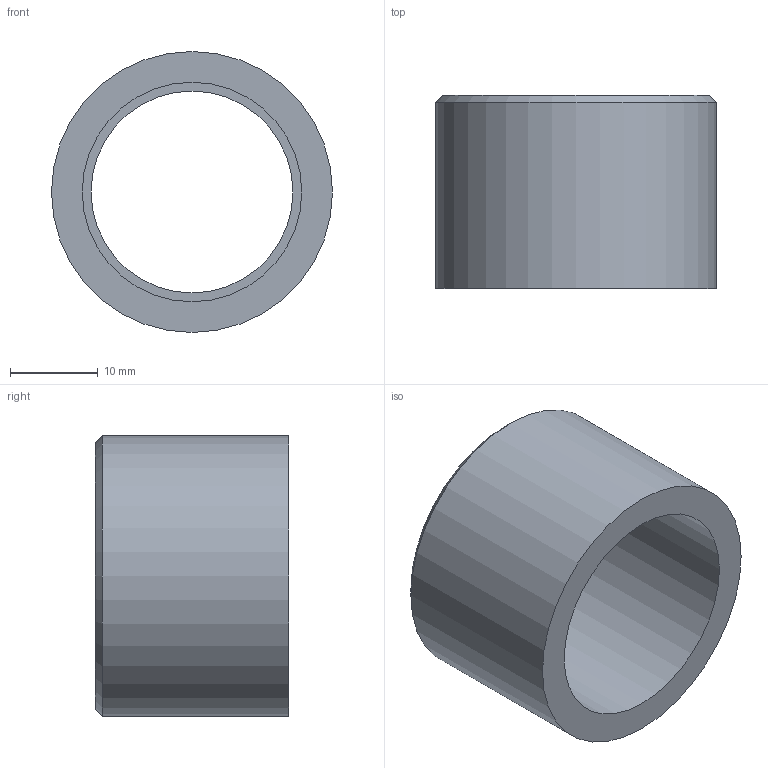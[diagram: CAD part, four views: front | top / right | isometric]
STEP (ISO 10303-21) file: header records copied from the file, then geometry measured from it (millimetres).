
FILE_DESCRIPTION(/* description */ ('PVC riduzione corta incollaggio metrica'),/* implementation_level */ '2;1');
FILE_NAME(/* name */ 'C:\Users\POLYPIPE\Desktop\DATASET INVENTOR\LIBRERIA EFFAST\RACCORDI 3DxWEB\RDR\3D_RDRRCD\3D_RDRRCD032C.stp',/* time_stamp */ '2018-01-19T15:29:21+01:00',/* author */ ('POLYPIPE'),/* organization */ ('Polypipe Italia s.r.l.'),/* preprocessor_version */ 'ST-DEVELOPER v16.1',/* originating_system */ 'Autodesk Inventor 2016',/* authorisation */ '');
FILE_SCHEMA (('CONFIG_CONTROL_DESIGN'));
Length unit declared in the file: millimetre
Products named in the file (1): 3D_RDRRCD
Bounding box: 32 x 22 x 32 mm (x, y, z)
Volume: 6981.5 mm3; surface area: 4592.3 mm2
Topology: 1 solids, 1 shells, 8 faces, 13 edges, 8 vertices
Faces by surface type: plane 3, cylinder 3, cone 2
Full cylindrical faces by diameter (mm): 23 x1, 25 x1, 32 x1
Entity records: 192 total; most frequent: DIRECTION 34, CARTESIAN_POINT 25, AXIS2_PLACEMENT_3D 17, EDGE_LOOP 16, ORIENTED_EDGE 16, FACE_BOUND 8, FACE_OUTER_BOUND 8, CIRCLE 8
